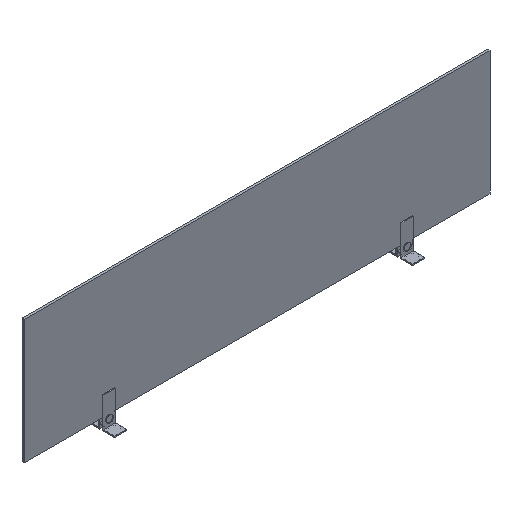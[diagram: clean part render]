
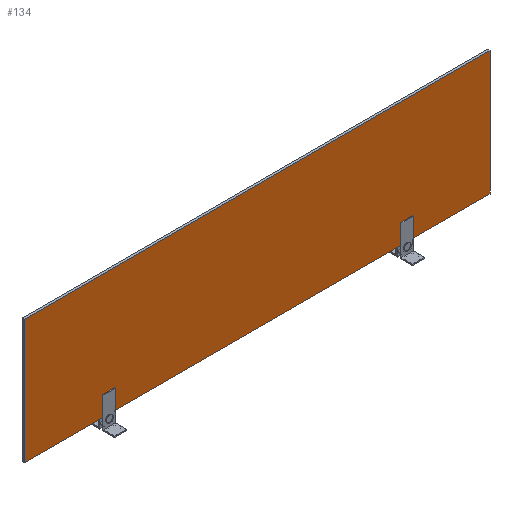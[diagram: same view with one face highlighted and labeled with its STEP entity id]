
A CAD part, isometric view. The second image highlights one B-rep face of the part: STEP entity #134.
In plain terms, the highlighted planar face has unit normal (0, -1, 0).
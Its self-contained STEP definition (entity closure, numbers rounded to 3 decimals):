
#134 = ADVANCED_FACE( '', ( #262 ), #263, .F. );
#262 = FACE_OUTER_BOUND( '', #404, .T. );
#263 = PLANE( '', #405 );
#404 = EDGE_LOOP( '', ( #580, #581, #582, #583 ) );
#405 = AXIS2_PLACEMENT_3D( '', #584, #585, #586 );
#580 = ORIENTED_EDGE( '', *, *, #863, .F. );
#581 = ORIENTED_EDGE( '', *, *, #864, .F. );
#582 = ORIENTED_EDGE( '', *, *, #856, .F. );
#583 = ORIENTED_EDGE( '', *, *, #843, .F. );
#584 = CARTESIAN_POINT( '', ( 0., 0., 0. ) );
#585 = DIRECTION( '', ( 0., 1., 0. ) );
#586 = DIRECTION( '', ( 0., 0., 1. ) );
#843 = EDGE_CURVE( '', #979, #980, #981, .T. );
#856 = EDGE_CURVE( '', #980, #1000, #1001, .T. );
#863 = EDGE_CURVE( '', #1011, #979, #1012, .T. );
#864 = EDGE_CURVE( '', #1000, #1011, #1013, .T. );
#979 = VERTEX_POINT( '', #1171 );
#980 = VERTEX_POINT( '', #1172 );
#981 = LINE( '', #1173, #1174 );
#1000 = VERTEX_POINT( '', #1202 );
#1001 = LINE( '', #1203, #1204 );
#1011 = VERTEX_POINT( '', #1216 );
#1012 = LINE( '', #1217, #1218 );
#1013 = LINE( '', #1219, #1220 );
#1171 = CARTESIAN_POINT( '', ( 0., 0., 0. ) );
#1172 = CARTESIAN_POINT( '', ( 0., 0., 400. ) );
#1173 = CARTESIAN_POINT( '', ( 0., 0., 0. ) );
#1174 = VECTOR( '', #1380, 1000. );
#1202 = CARTESIAN_POINT( '', ( 1500., 0., 400. ) );
#1203 = CARTESIAN_POINT( '', ( 0., 0., 400. ) );
#1204 = VECTOR( '', #1390, 1000. );
#1216 = CARTESIAN_POINT( '', ( 1500., 0., 0. ) );
#1217 = CARTESIAN_POINT( '', ( 1500., 0., 0. ) );
#1218 = VECTOR( '', #1399, 1000. );
#1219 = CARTESIAN_POINT( '', ( 1500., 0., 400. ) );
#1220 = VECTOR( '', #1400, 1000. );
#1380 = DIRECTION( '', ( 0., 0., 1. ) );
#1390 = DIRECTION( '', ( 1., 0., 0. ) );
#1399 = DIRECTION( '', ( -1., 0., 0. ) );
#1400 = DIRECTION( '', ( 0., 0., -1. ) );
